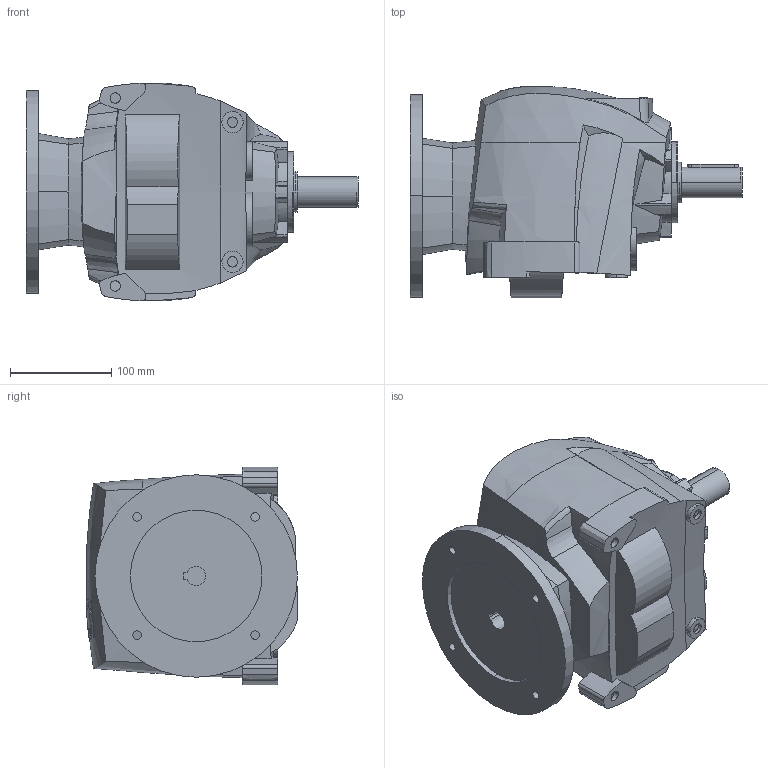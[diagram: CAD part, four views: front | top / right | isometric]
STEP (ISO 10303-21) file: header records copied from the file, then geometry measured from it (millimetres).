
FILE_DESCRIPTION((''),'2;1');
FILE_NAME('R30_UNV_PAM80','2013-11-19T',('Luca'),(''),'PRO/ENGINEER BY PARAMETRIC TECHNOLOGY CORPORATION, 2008230','PRO/ENGINEER BY PARAMETRIC TECHNOLOGY CORPORATION, 2008230','');
FILE_SCHEMA(('CONFIG_CONTROL_DESIGN'));
Length unit declared in the file: millimetre
Products named in the file (1): R30_UNV_PAM80
Bounding box: 327.99 x 209.27 x 215.22 mm (x, y, z)
Volume: 6537692 mm3; surface area: 279066.7 mm2
Topology: 6 solids, 6 shells, 391 faces, 1067 edges, 718 vertices
Faces by surface type: plane 144, cylinder 113, bspline 87, cone 26, extrusion 17, torus 4
Entity records: 16387 total; most frequent: CARTESIAN_POINT 7285, ORIENTED_EDGE 2122, DIRECTION 1470, EDGE_CURVE 1061, VERTEX_POINT 716, VECTOR 490, AXIS2_PLACEMENT_3D 490, LINE 473
